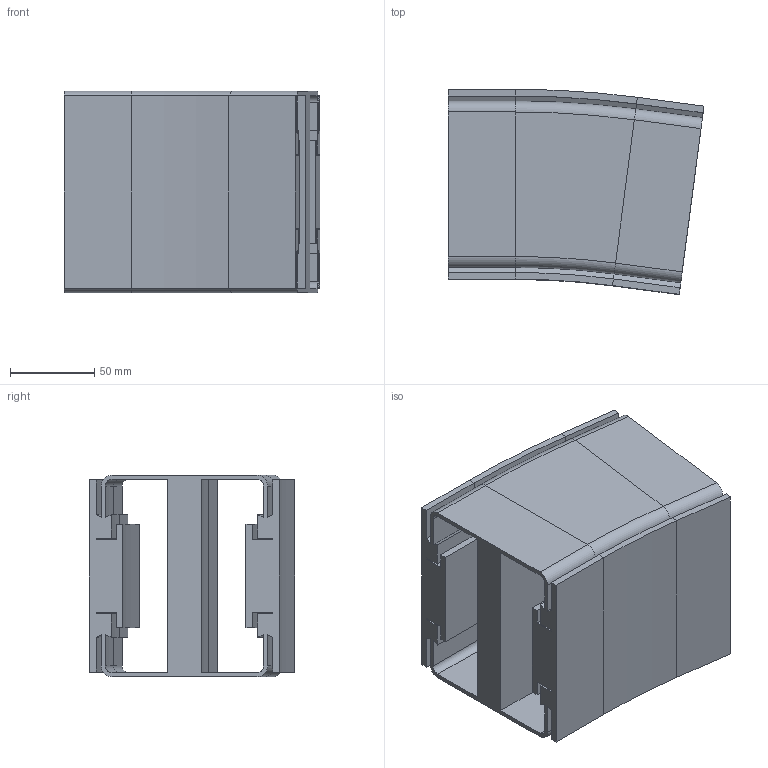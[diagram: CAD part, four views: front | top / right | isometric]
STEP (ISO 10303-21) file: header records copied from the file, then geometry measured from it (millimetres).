
FILE_DESCRIPTION (( 'STEP AP214' ), '1' );
FILE_NAME ('VC.120 Verticale bochtsectie.R500 7,5.STEP', '2017-02-08T08:10:06', ( '' ), ( '' ), 'SwSTEP 2.0', 'SolidWorks 2016', '' );
FILE_SCHEMA (( 'AUTOMOTIVE_DESIGN' ));
Length unit declared in the file: millimetre
Products named in the file (1): VC.120 Verticale bochtsectie.R500 7,5
Bounding box: 152.3 x 122.02 x 120 mm (x, y, z)
Volume: 857591.2 mm3; surface area: 219161.1 mm2
Topology: 1 solids, 1 shells, 206 faces, 476 edges, 272 vertices
Faces by surface type: plane 144, cylinder 46, cone 8, torus 8
Entity records: 5674 total; most frequent: DIRECTION 990, CARTESIAN_POINT 955, ORIENTED_EDGE 952, EDGE_CURVE 476, VECTOR 376, LINE 376, AXIS2_PLACEMENT_3D 307, VERTEX_POINT 272
